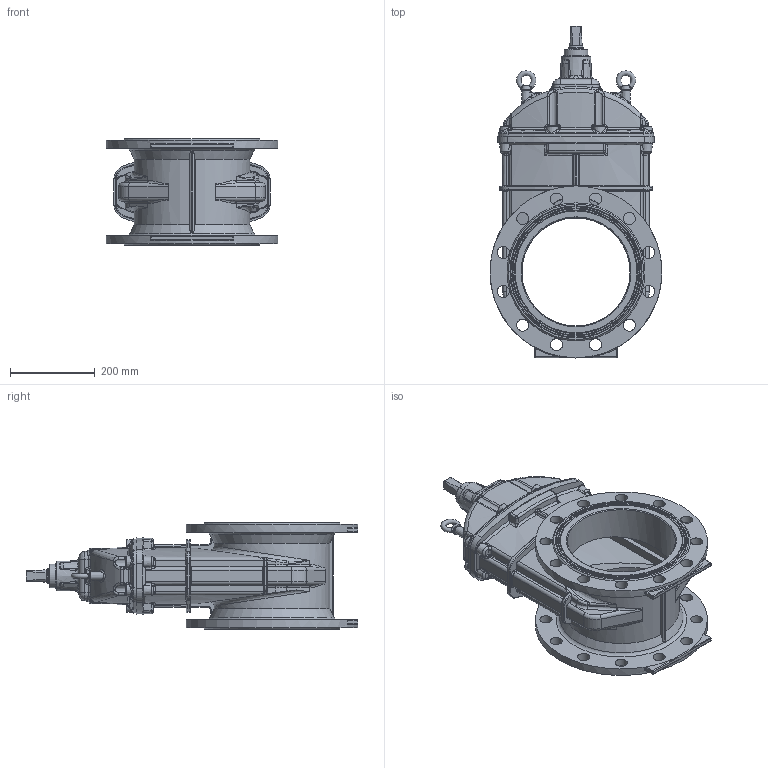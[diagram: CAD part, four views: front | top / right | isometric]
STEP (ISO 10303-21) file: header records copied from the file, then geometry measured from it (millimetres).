
FILE_DESCRIPTION(/* description */ (''),/* implementation_level */ '2;1');
FILE_NAME(/* name */ 'F4-DN250PN16.stp',/* time_stamp */ '2024-08-01T08:21:33+07:00',/* author */ ('Eva'),/* organization */ (''),/* preprocessor_version */ 'ST-DEVELOPER v20',/* originating_system */ 'Autodesk Inventor 2025',/* authorisation */ '');
FILE_SCHEMA (('AUTOMOTIVE_DESIGN { 1 0 10303 214 3 1 1 }'));
Length unit declared in the file: metre
Products named in the file (8): F4-DN250PN16; ФІН··§ёЛDN250PN16(YZ45
X10302-04-00 20Cr13); ·§ёЗ DN250PN16(YZ45X10302-02-00 
QT450-10); Ц№НЖВЭДё DN300PN16(YZ4
5X12302-09-00 ); ·АіѕГЬ·вИ¦ DN30
0PN16(YZ45X12302-10-00 ); M12 ДЪБщЅЗФІЦщН·ВЭ¶¤ 
GB T 70.1-2000(M12ЎБ30); µх»·ВЭ¶¤ GBT 825-1988
(M10); ·§Ме DN250PN16-КдИл
Assembly tree (15 placements, depth 2):
  F4-DN250PN16
    ФІН··§ёЛDN250PN16(YZ45
X10302-04-00 20Cr13)
    ·§ёЗ DN250PN16(YZ45X10302-02-00 
QT450-10)
    Ц№НЖВЭДё DN300PN16(YZ4
5X12302-09-00 )
    ·АіѕГЬ·вИ¦ DN30
0PN16(YZ45X12302-10-00 )
    M12 ДЪБщЅЗФІЦщН·ВЭ¶¤ 
GB T 70.1-2000(M12ЎБ30)  x8
    µх»·ВЭ¶¤ GBT 825-1988
(M10)  x2
    ·§Ме DN250PN16-КдИл
Bounding box: 405 x 781.8 x 250 mm (x, y, z)
Volume: 8606670.2 mm3; surface area: 1516438 mm2
Topology: 15 solids, 15 shells, 1717 faces, 4128 edges, 2407 vertices
Faces by surface type: bspline 650, plane 339, cylinder 330, torus 213, cone 145, sphere 40
Full cylindrical faces by diameter (mm): 6.8 x1, 7.7 x2, 8.5 x2, 10 x2, 10.2 x8, 12 x8, 14 x8, 18.27 x8, 27 x1, 28.5 x24, 34 x3, 35 x1, 40 x1, 49 x1, 56 x1, 60 x1, 255 x1, 405 x2
Entity records: 98106 total; most frequent: CARTESIAN_POINT 65010, ORIENTED_EDGE 7492, DIRECTION 6197, EDGE_CURVE 3746, AXIS2_PLACEMENT_3D 2709, VERTEX_POINT 2218, EDGE_LOOP 1678, CIRCLE 1632
